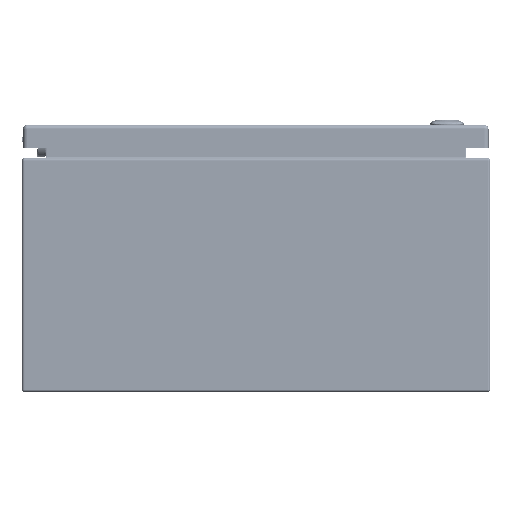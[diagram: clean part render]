
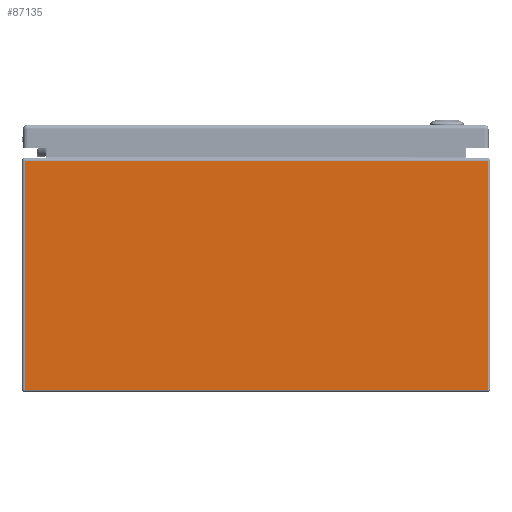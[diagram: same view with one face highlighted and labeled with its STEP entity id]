
A CAD part, front view. The second image highlights one B-rep face of the part: STEP entity #87135.
In plain terms, the highlighted planar face has unit normal (0, -1, 0).
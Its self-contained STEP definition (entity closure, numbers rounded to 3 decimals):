
#7730=LINE('',#121210,#13943);
#7737=LINE('',#121225,#13950);
#7739=LINE('',#121232,#13952);
#7741=LINE('',#121241,#13954);
#13943=VECTOR('',#100772,0.394);
#13950=VECTOR('',#100785,0.394);
#13952=VECTOR('',#100793,0.394);
#13954=VECTOR('',#100805,0.394);
#21445=FACE_OUTER_BOUND('',#26740,.T.);
#26740=EDGE_LOOP('',(#57899,#57900,#57901,#57902));
#35143=VERTEX_POINT('',#121180);
#35150=VERTEX_POINT('',#121206);
#35155=VERTEX_POINT('',#121224);
#35157=VERTEX_POINT('',#121230);
#43967=EDGE_CURVE('',#35143,#35150,#7730,.T.);
#43974=EDGE_CURVE('',#35150,#35155,#7737,.T.);
#43978=EDGE_CURVE('',#35157,#35143,#7739,.T.);
#43983=EDGE_CURVE('',#35157,#35155,#7741,.T.);
#57899=ORIENTED_EDGE('',*,*,#43967,.F.);
#57900=ORIENTED_EDGE('',*,*,#43978,.F.);
#57901=ORIENTED_EDGE('',*,*,#43983,.T.);
#57902=ORIENTED_EDGE('',*,*,#43974,.F.);
#85036=PLANE('',#93536);
#87135=ADVANCED_FACE('',(#21445),#85036,.F.);
#93536=AXIS2_PLACEMENT_3D('',#121252,#100819,#100820);
#100772=DIRECTION('',(1.,0.,0.));
#100785=DIRECTION('',(0.,0.,-1.));
#100793=DIRECTION('',(0.,0.,1.));
#100805=DIRECTION('',(1.,0.,0.));
#100819=DIRECTION('center_axis',(0.,1.,0.));
#100820=DIRECTION('ref_axis',(0.,0.,1.));
#121180=CARTESIAN_POINT('',(-7.916,-15.,7.916));
#121206=CARTESIAN_POINT('',(7.916,-15.,7.916));
#121210=CARTESIAN_POINT('',(3.979,-15.,7.916));
#121224=CARTESIAN_POINT('',(7.916,-15.,0.084));
#121225=CARTESIAN_POINT('',(7.916,-15.,4.));
#121230=CARTESIAN_POINT('',(-7.916,-15.,0.084));
#121232=CARTESIAN_POINT('',(-7.916,-15.,4.));
#121241=CARTESIAN_POINT('',(-3.958,-15.,0.084));
#121252=CARTESIAN_POINT('Origin',(0.,-15.,4.));
